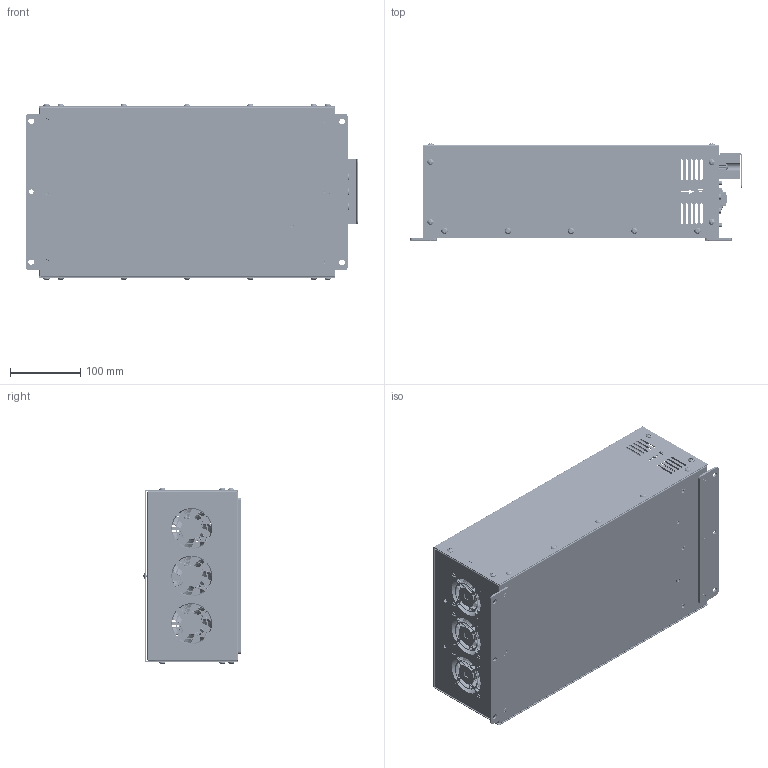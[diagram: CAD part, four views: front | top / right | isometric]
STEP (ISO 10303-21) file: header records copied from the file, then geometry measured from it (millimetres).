
FILE_DESCRIPTION(/* description */ (''),/* implementation_level */ '2;1');
FILE_NAME(/* name */ '',/* time_stamp */ '2026-06-16T16:49:28+09:00',/* author */ ('Administrator'),/* organization */ (''),/* preprocessor_version */ 'ST-DEVELOPER v20.1',/* originating_system */ 'Autodesk Inventor 2026',/* authorisation */ '');
FILE_SCHEMA (('AUTOMOTIVE_DESIGN { 1 0 10303 214 3 1 1 }'));
Products named in the file (1): VX3COM_OLED_21pitch단자대_2026.06.16_단순화_
1
Bounding box: 471.11 x 138.18 x 250.84 mm (x, y, z)
Volume: 743346.4 mm3; surface area: 943746.3 mm2
Topology: 15 solids, 15 shells, 8838 faces, 23615 edges, 15342 vertices
Faces by surface type: plane 5121, cylinder 1927, bspline 1529, torus 154, cone 76, sphere 31
Full cylindrical faces by diameter (mm): 0.013 x9, 0.6 x3, 0.609 x1, 0.61 x27, 0.635 x9, 0.7 x18, 0.75 x18, 0.85 x3, 0.9 x24, 1 x5, 1.397 x9, 1.5 x4, 2.1 x4, 2.286 x9, 2.5 x4, 2.8 x12, 2.957 x12, 3 x6, 3.048 x4, 3.4 x5, 3.6 x25, 3.783 x2, 3.8 x20, 3.9 x2, 4 x17, 4.3 x12, 4.5 x19, 5 x27, 5.3 x10, 5.4 x6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
Entity records: 316333 total; most frequent: CARTESIAN_POINT 91969, ORIENTED_EDGE 47184, DIRECTION 40340, EDGE_CURVE 23592, VERTEX_POINT 15342, LINE 15216, VECTOR 15216, AXIS2_PLACEMENT_3D 12562
